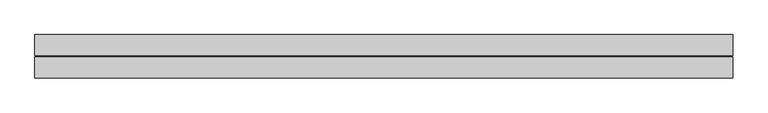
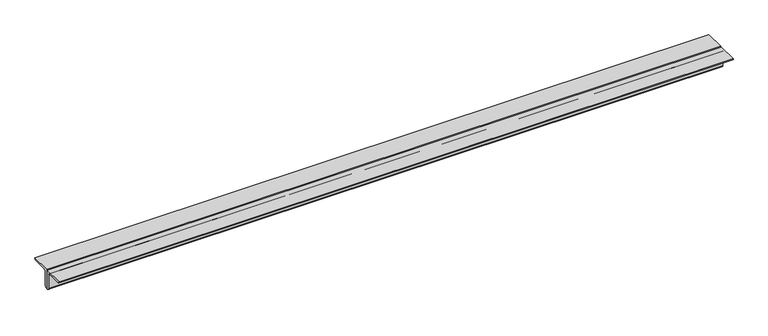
"""IFC4 building model written with IfcOpenShell, lengths in millimetres: beam geometry, Profilati doppi a L : DCED150x12."""

from ifc_helpers import new_model, si_unit, point, frame, frame_2d, origin, place, context, project, spatial, polyline, circle_curve, trimmed, segment, composite_curve, outline, extrude, source, transform, mapped, element, save


def beam_624bc293(model_context):
    return source(origin(), model_context, "Body", "SweptSolid", [
        extrude(outline(composite_curve([segment(polyline([(6.0, 42.4), (156.0, 42.4)]), True, "CONTINUOUS"), segment(trimmed(circle_curve(frame_2d((141.0, 42.4)), 15.0), [point((156.0, 42.4))], [point((141.0, 27.4))], False, "CARTESIAN"), True, "CONTINUOUS"), segment(polyline([(141.0, 27.4), (36.0, 27.4)]), True, "CONTINUOUS"), segment(trimmed(circle_curve(frame_2d((36.0, 12.4)), 15.0), [point((36.0, 27.4))], [point((21.0, 12.4))], True, "CARTESIAN"), True, "CONTINUOUS"), segment(polyline([(21.0, 12.4), (21.0, -92.6)]), True, "CONTINUOUS"), segment(trimmed(circle_curve(frame_2d((6.0, -92.6)), 15.0), [point((21.0, -92.6))], [point((6.0, -107.6))], False, "CARTESIAN"), True, "CONTINUOUS"), segment(polyline([(6.0, -107.6), (6.0, 42.4)]), True, "CONTINUOUS")], self_intersect=False)), frame((-2398.0, 0.0, 0.0), z_axis=(1.0, 0.0, 0.0), x_axis=(0.0, 1.0, 0.0)), (0.0, 0.0, 1.0), 5025.0),
        extrude(outline(composite_curve([segment(polyline([(-6.0, 42.4), (-6.0, -107.6)]), True, "CONTINUOUS"), segment(trimmed(circle_curve(frame_2d((-6.0, -92.6)), 15.0), [point((-6.0, -107.6))], [point((-21.0, -92.6))], False, "CARTESIAN"), True, "CONTINUOUS"), segment(polyline([(-21.0, -92.6), (-21.0, 12.4)]), True, "CONTINUOUS"), segment(trimmed(circle_curve(frame_2d((-36.0, 12.4)), 15.0), [point((-21.0, 12.4))], [point((-36.0, 27.4))], True, "CARTESIAN"), True, "CONTINUOUS"), segment(polyline([(-36.0, 27.4), (-141.0, 27.4)]), True, "CONTINUOUS"), segment(trimmed(circle_curve(frame_2d((-141.0, 42.4)), 15.0), [point((-141.0, 27.4))], [point((-156.0, 42.4))], False, "CARTESIAN"), True, "CONTINUOUS"), segment(polyline([(-156.0, 42.4), (-6.0, 42.4)]), True, "CONTINUOUS")], self_intersect=False)), frame((-2398.0, 0.0, 0.0), z_axis=(1.0, 0.0, 0.0), x_axis=(0.0, 1.0, 0.0)), (0.0, 0.0, 1.0), 5025.0),
    ])


if __name__ == "__main__":
    model = new_model("IFC4")
    model_context = context("Model", 3, world=origin())
    ifc_project = project(units=[si_unit("LENGTHUNIT", "METRE", prefix="MILLI")], contexts=[model_context])
    site = spatial("IfcSite", under=ifc_project)
    building = spatial("IfcBuilding", under=site)
    placement = place(None, origin())
    beam_shape = beam_624bc293(model_context)
    element("IfcBeam", 1, ObjectType="Profilati doppi a L : DCED150x12", at=placement, inside=building, context=model_context, shape_type="MappedRepresentation", body=[
        mapped(beam_shape, transform((0.0, 0.0, 0.0), x_axis=(1.0, 0.0, 0.0), y_axis=(0.0, 1.0, 0.0), z_axis=(0.0, 0.0, 1.0))),
    ])
    save(model, "model.ifc")
